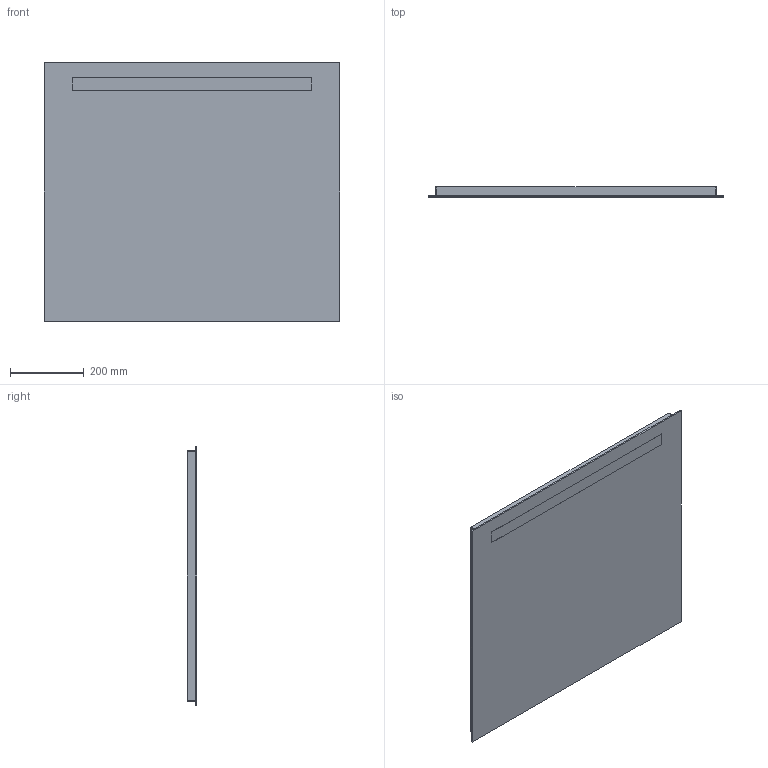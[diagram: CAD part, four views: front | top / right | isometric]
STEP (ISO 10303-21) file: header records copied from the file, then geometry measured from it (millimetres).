
FILE_DESCRIPTION(/* description */ (''),/* implementation_level */ '2;1');
FILE_NAME(/* name */ 'C:\Planerdaten\Export PLA\502.807.00.1\stp\502807.stp',/* time_stamp */ '2022-12-02T15:11:27+01:00',/* author */ ('JANAN'),/* organization */ (''),/* preprocessor_version */ 'ST-DEVELOPER v18.1',/* originating_system */ 'Autodesk Inventor 2021',/* authorisation */ '');
FILE_SCHEMA (('AUTOMOTIVE_DESIGN { 1 0 10303 214 3 1 1 }'));
Length unit declared in the file: millimetre
Products named in the file (1): tmpCB38.tmp
Bounding box: 800 x 26 x 700 mm (x, y, z)
Volume: 13605144.4 mm3; surface area: 2229973.5 mm2
Topology: 2 solids, 2 shells, 29 faces, 68 edges, 48 vertices
Faces by surface type: plane 21, cylinder 8
Full cylindrical faces by diameter (mm): 8 x4
Entity records: 937 total; most frequent: DIRECTION 152, CARTESIAN_POINT 146, ORIENTED_EDGE 136, EDGE_CURVE 68, AXIS2_PLACEMENT_3D 54, VERTEX_POINT 48, LINE 44, VECTOR 44
